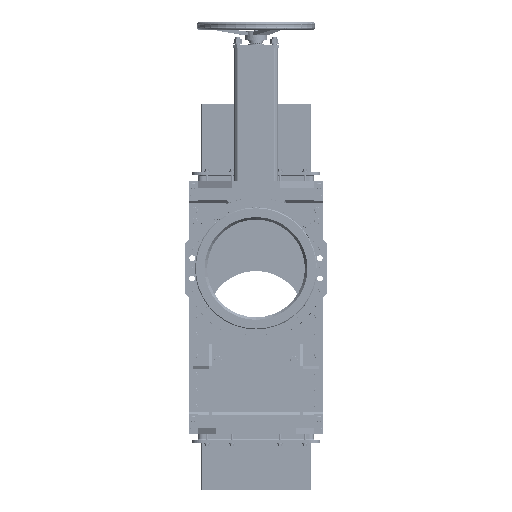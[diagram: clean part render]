
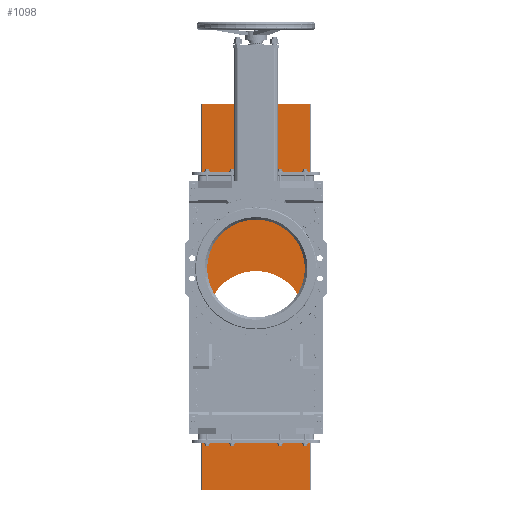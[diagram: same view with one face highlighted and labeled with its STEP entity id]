
A CAD part, left-side view. The second image highlights one B-rep face of the part: STEP entity #1098.
In plain terms, the highlighted planar face has unit normal (-1, 0, 0).
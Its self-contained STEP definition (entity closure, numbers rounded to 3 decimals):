
#1098=ADVANCED_FACE('',(#5709,#5710,#5711,#5712,#5713,#5714,#5715),#5716,.F.);
#5709=FACE_BOUND('',#14246,.T.);
#5710=FACE_BOUND('',#14247,.T.);
#5711=FACE_BOUND('',#14248,.T.);
#5712=FACE_OUTER_BOUND('',#14249,.T.);
#5713=FACE_BOUND('',#14250,.T.);
#5714=FACE_BOUND('',#14251,.T.);
#5715=FACE_BOUND('',#14252,.T.);
#5716=PLANE('',#14253);
#14246=EDGE_LOOP('',(#28020,#28021));
#14247=EDGE_LOOP('',(#28022,#28023));
#14248=EDGE_LOOP('',(#28024,#28025));
#14249=EDGE_LOOP('',(#28026,#28027,#28028,#28029));
#14250=EDGE_LOOP('',(#28030,#28031));
#14251=EDGE_LOOP('',(#28032,#28033));
#14252=EDGE_LOOP('',(#28034,#28035));
#14253=AXIS2_PLACEMENT_3D('',#28036,#28037,#28038);
#28020=ORIENTED_EDGE('',*,*,#52259,.F.);
#28021=ORIENTED_EDGE('',*,*,#54613,.F.);
#28022=ORIENTED_EDGE('',*,*,#52993,.F.);
#28023=ORIENTED_EDGE('',*,*,#54614,.F.);
#28024=ORIENTED_EDGE('',*,*,#54282,.F.);
#28025=ORIENTED_EDGE('',*,*,#54615,.F.);
#28026=ORIENTED_EDGE('',*,*,#54616,.T.);
#28027=ORIENTED_EDGE('',*,*,#54617,.F.);
#28028=ORIENTED_EDGE('',*,*,#54618,.F.);
#28029=ORIENTED_EDGE('',*,*,#54619,.T.);
#28030=ORIENTED_EDGE('',*,*,#52198,.F.);
#28031=ORIENTED_EDGE('',*,*,#54620,.F.);
#28032=ORIENTED_EDGE('',*,*,#53387,.F.);
#28033=ORIENTED_EDGE('',*,*,#54621,.F.);
#28034=ORIENTED_EDGE('',*,*,#52569,.F.);
#28035=ORIENTED_EDGE('',*,*,#54622,.F.);
#28036=CARTESIAN_POINT('',(-6.,235.5,720.));
#28037=DIRECTION('',(1.,0.,0.));
#28038=DIRECTION('',(0.,0.,-1.));
#52198=EDGE_CURVE('',#66630,#66626,#66632,.T.);
#52259=EDGE_CURVE('',#66752,#66748,#66754,.T.);
#52569=EDGE_CURVE('',#67365,#67361,#67367,.T.);
#52993=EDGE_CURVE('',#68208,#68204,#68210,.T.);
#53387=EDGE_CURVE('',#68982,#68978,#68984,.T.);
#54282=EDGE_CURVE('',#70734,#70730,#70736,.T.);
#54613=EDGE_CURVE('',#66748,#66752,#71376,.T.);
#54614=EDGE_CURVE('',#68204,#68208,#71377,.T.);
#54615=EDGE_CURVE('',#70730,#70734,#71378,.T.);
#54616=EDGE_CURVE('',#71379,#71380,#71381,.T.);
#54617=EDGE_CURVE('',#71382,#71380,#71383,.T.);
#54618=EDGE_CURVE('',#71384,#71382,#71385,.T.);
#54619=EDGE_CURVE('',#71384,#71379,#71386,.T.);
#54620=EDGE_CURVE('',#66626,#66630,#71387,.T.);
#54621=EDGE_CURVE('',#68978,#68982,#71388,.T.);
#54622=EDGE_CURVE('',#67361,#67365,#71389,.T.);
#66626=VERTEX_POINT('',#82754);
#66630=VERTEX_POINT('',#82759);
#66632=CIRCLE('',#82762,20.);
#66748=VERTEX_POINT('',#82928);
#66752=VERTEX_POINT('',#82933);
#66754=CIRCLE('',#82936,15.845);
#67361=VERTEX_POINT('',#83806);
#67365=VERTEX_POINT('',#83811);
#67367=CIRCLE('',#83814,15.845);
#68204=VERTEX_POINT('',#85071);
#68208=VERTEX_POINT('',#85076);
#68210=CIRCLE('',#85079,15.845);
#68978=VERTEX_POINT('',#86306);
#68982=VERTEX_POINT('',#86311);
#68984=CIRCLE('',#86314,15.845);
#70730=VERTEX_POINT('',#89221);
#70734=VERTEX_POINT('',#89226);
#70736=CIRCLE('',#89229,214.);
#71376=CIRCLE('',#90267,15.845);
#71377=CIRCLE('',#90268,15.845);
#71378=CIRCLE('',#90269,214.);
#71379=VERTEX_POINT('',#90270);
#71380=VERTEX_POINT('',#90271);
#71381=LINE('',#90272,#90273);
#71382=VERTEX_POINT('',#90274);
#71383=LINE('',#90275,#90276);
#71384=VERTEX_POINT('',#90277);
#71385=LINE('',#90278,#90279);
#71386=LINE('',#90280,#90281);
#71387=CIRCLE('',#90282,20.);
#71388=CIRCLE('',#90283,15.845);
#71389=CIRCLE('',#90284,15.845);
#82754=CARTESIAN_POINT('',(-6.,-20.,685.));
#82759=CARTESIAN_POINT('',(-6.,20.,685.));
#82762=AXIS2_PLACEMENT_3D('',#113183,#113184,#113185);
#82928=CARTESIAN_POINT('',(-6.,-79.345,667.));
#82933=CARTESIAN_POINT('',(-6.,-47.655,667.));
#82936=AXIS2_PLACEMENT_3D('',#113298,#113299,#113300);
#83806=CARTESIAN_POINT('',(-6.,47.655,667.));
#83811=CARTESIAN_POINT('',(-6.,79.345,667.));
#83814=AXIS2_PLACEMENT_3D('',#113890,#113891,#113892);
#85071=CARTESIAN_POINT('',(-6.,-79.345,702.));
#85076=CARTESIAN_POINT('',(-6.,-47.655,702.));
#85079=AXIS2_PLACEMENT_3D('',#114676,#114677,#114678);
#86306=CARTESIAN_POINT('',(-6.,47.655,702.));
#86311=CARTESIAN_POINT('',(-6.,79.345,702.));
#86314=AXIS2_PLACEMENT_3D('',#115377,#115378,#115379);
#89221=CARTESIAN_POINT('',(-6.,-214.,-225.));
#89226=CARTESIAN_POINT('',(-6.,214.,-225.));
#89229=AXIS2_PLACEMENT_3D('',#116956,#116957,#116958);
#90267=AXIS2_PLACEMENT_3D('',#117539,#117540,#117541);
#90268=AXIS2_PLACEMENT_3D('',#117542,#117543,#117544);
#90269=AXIS2_PLACEMENT_3D('',#117545,#117546,#117547);
#90270=CARTESIAN_POINT('',(-6.,235.5,-970.));
#90271=CARTESIAN_POINT('',(-6.,-235.5,-970.));
#90272=CARTESIAN_POINT('',(-6.,235.5,-970.));
#90273=VECTOR('',#117548,1000.);
#90274=CARTESIAN_POINT('',(-6.,-235.5,720.));
#90275=CARTESIAN_POINT('',(-6.,-235.5,720.));
#90276=VECTOR('',#117549,1000.);
#90277=CARTESIAN_POINT('',(-6.,235.5,720.));
#90278=CARTESIAN_POINT('',(-6.,235.5,720.));
#90279=VECTOR('',#117550,1000.);
#90280=CARTESIAN_POINT('',(-6.,235.5,720.));
#90281=VECTOR('',#117551,1000.);
#90282=AXIS2_PLACEMENT_3D('',#117552,#117553,#117554);
#90283=AXIS2_PLACEMENT_3D('',#117555,#117556,#117557);
#90284=AXIS2_PLACEMENT_3D('',#117558,#117559,#117560);
#113183=CARTESIAN_POINT('',(-6.,0.,685.));
#113184=DIRECTION('',(-1.,0.,0.));
#113185=DIRECTION('',(0.,1.,0.));
#113298=CARTESIAN_POINT('',(-6.,-63.5,667.));
#113299=DIRECTION('',(-1.,0.,0.));
#113300=DIRECTION('',(0.,1.,0.));
#113890=CARTESIAN_POINT('',(-6.,63.5,667.));
#113891=DIRECTION('',(-1.,0.,0.));
#113892=DIRECTION('',(0.,1.,0.));
#114676=CARTESIAN_POINT('',(-6.,-63.5,702.));
#114677=DIRECTION('',(-1.,0.,0.));
#114678=DIRECTION('',(0.,1.,0.));
#115377=CARTESIAN_POINT('',(-6.,63.5,702.));
#115378=DIRECTION('',(-1.,0.,0.));
#115379=DIRECTION('',(0.,1.,0.));
#116956=CARTESIAN_POINT('',(-6.,0.,-225.));
#116957=DIRECTION('',(-1.,0.,0.));
#116958=DIRECTION('',(0.,1.,0.));
#117539=CARTESIAN_POINT('',(-6.,-63.5,667.));
#117540=DIRECTION('',(-1.,0.,0.));
#117541=DIRECTION('',(0.,1.,0.));
#117542=CARTESIAN_POINT('',(-6.,-63.5,702.));
#117543=DIRECTION('',(-1.,0.,0.));
#117544=DIRECTION('',(0.,1.,0.));
#117545=CARTESIAN_POINT('',(-6.,0.,-225.));
#117546=DIRECTION('',(-1.,0.,0.));
#117547=DIRECTION('',(0.,1.,0.));
#117548=DIRECTION('',(0.,-1.,0.));
#117549=DIRECTION('',(0.,0.,-1.));
#117550=DIRECTION('',(0.,-1.,0.));
#117551=DIRECTION('',(0.,0.,-1.));
#117552=CARTESIAN_POINT('',(-6.,0.,685.));
#117553=DIRECTION('',(-1.,0.,0.));
#117554=DIRECTION('',(0.,1.,0.));
#117555=CARTESIAN_POINT('',(-6.,63.5,702.));
#117556=DIRECTION('',(-1.,0.,0.));
#117557=DIRECTION('',(0.,1.,0.));
#117558=CARTESIAN_POINT('',(-6.,63.5,667.));
#117559=DIRECTION('',(-1.,0.,0.));
#117560=DIRECTION('',(0.,1.,0.));
